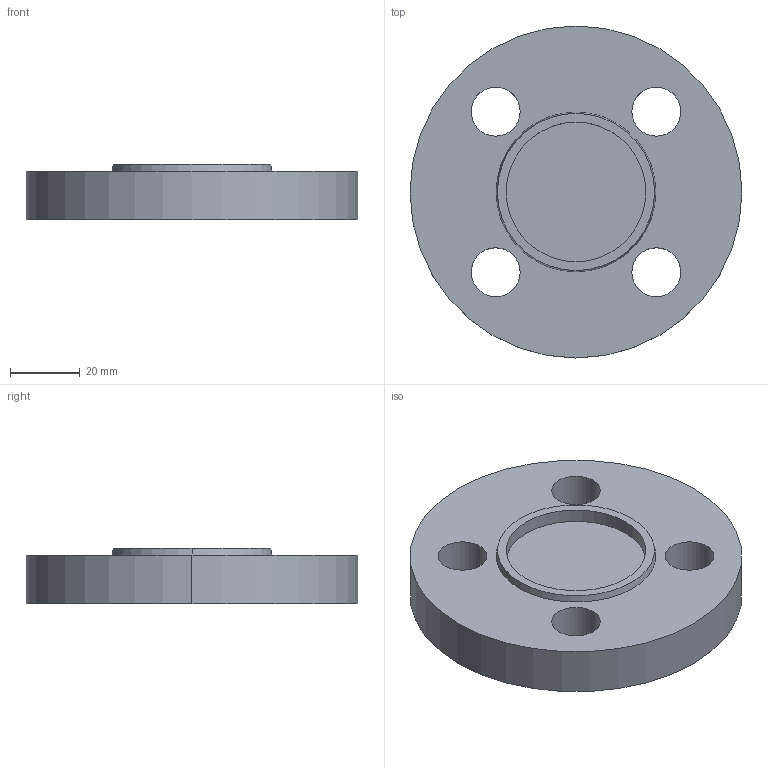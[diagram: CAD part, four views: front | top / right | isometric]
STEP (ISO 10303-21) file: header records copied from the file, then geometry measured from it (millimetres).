
FILE_DESCRIPTION (( 'STEP AP214' ), '1' );
FILE_NAME ('PN40 DN15 Type 05 - Type F Face.STEP', '2018-12-29T15:06:07', ( '' ), ( '' ), 'SwSTEP 2.0', 'SolidWorks 2019', '' );
FILE_SCHEMA (( 'AUTOMOTIVE_DESIGN' ));
Length unit declared in the file: millimetre
Products named in the file (1): PN40 DN15 Type 05 - Type F Face
Bounding box: 95 x 95 x 16 mm (x, y, z)
Volume: 88819 mm3; surface area: 20328 mm2
Topology: 1 solids, 1 shells, 18 faces, 42 edges, 28 vertices
Faces by surface type: cylinder 12, plane 4, cone 2
Entity records: 584 total; most frequent: DIRECTION 108, CARTESIAN_POINT 89, ORIENTED_EDGE 84, AXIS2_PLACEMENT_3D 47, EDGE_CURVE 42, CIRCLE 28, EDGE_LOOP 28, VERTEX_POINT 28
